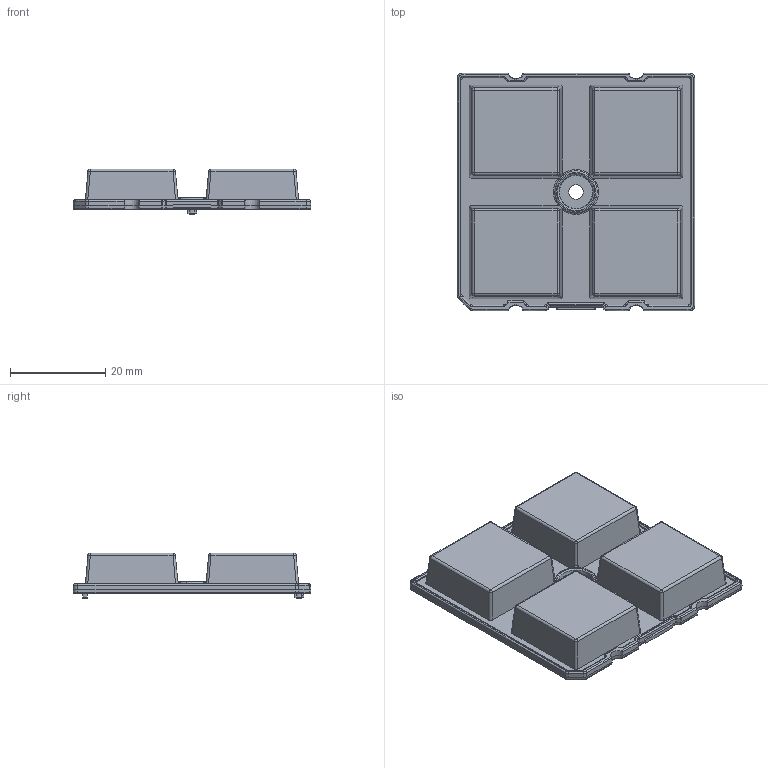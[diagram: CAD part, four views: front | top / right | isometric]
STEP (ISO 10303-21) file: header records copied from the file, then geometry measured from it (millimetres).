
FILE_DESCRIPTION(('CATIA V5 STEP Exchange'),'2;1');
FILE_NAME('C:\Users\karri.siuvatti\Desktop\Projekti kansio\Strada\STRADA-2X2\LEY\C13232\20121115_C13232_HB-2X2-WW_ks_MechanicalModel.stp','2012-11-16T06:10:40+00:00',('none'),('none'),'CATIA Version 5 Release 20 GA (IN-10)','CATIA V5 STEP AP203','none');
FILE_SCHEMA(('CONFIG_CONTROL_DESIGN'));
Length unit declared in the file: millimetre
Products named in the file (1): Part3
Bounding box: 50 x 50 x 9.65 mm (x, y, z)
Volume: 9221.9 mm3; surface area: 9664.5 mm2
Topology: 1 solids, 1 shells, 597 faces, 1464 edges, 865 vertices
Faces by surface type: cylinder 165, plane 146, bspline 92, cone 88, torus 64, sphere 18, extrusion 16, revolution 8
Entity records: 34796 total; most frequent: CARTESIAN_POINT 22690, ORIENTED_EDGE 2876, DIRECTION 1731, EDGE_CURVE 1438, VERTEX_POINT 865, AXIS2_PLACEMENT_3D 817, EDGE_LOOP 621, ADVANCED_FACE 597
